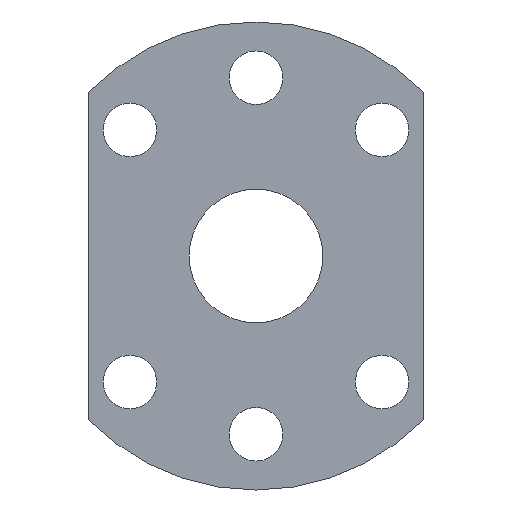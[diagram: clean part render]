
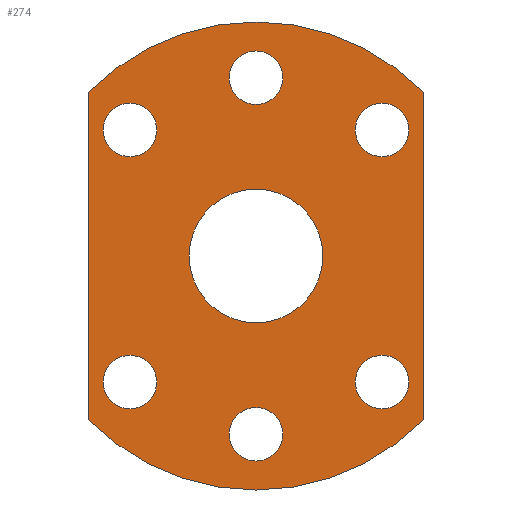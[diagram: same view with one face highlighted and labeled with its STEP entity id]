
A CAD part, left-side view. The second image highlights one B-rep face of the part: STEP entity #274.
In plain terms, the highlighted planar face has unit normal (-1, 0, 0).
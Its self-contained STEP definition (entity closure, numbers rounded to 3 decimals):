
#25=FACE_BOUND('',#56,.T.);
#26=FACE_BOUND('',#57,.T.);
#27=FACE_BOUND('',#58,.T.);
#28=FACE_BOUND('',#59,.T.);
#29=FACE_BOUND('',#60,.T.);
#30=FACE_BOUND('',#61,.T.);
#31=FACE_BOUND('',#62,.T.);
#40=FACE_OUTER_BOUND('',#55,.T.);
#55=EDGE_LOOP('',(#197,#198,#199,#200));
#56=EDGE_LOOP('',(#201));
#57=EDGE_LOOP('',(#202));
#58=EDGE_LOOP('',(#203));
#59=EDGE_LOOP('',(#204));
#60=EDGE_LOOP('',(#205));
#61=EDGE_LOOP('',(#206));
#62=EDGE_LOOP('',(#207));
#85=CIRCLE('',#310,21.);
#86=CIRCLE('',#311,21.);
#87=CIRCLE('',#312,6.);
#88=CIRCLE('',#313,2.4);
#89=CIRCLE('',#314,2.4);
#90=CIRCLE('',#315,2.4);
#91=CIRCLE('',#316,2.4);
#92=CIRCLE('',#317,2.4);
#93=CIRCLE('',#318,2.4);
#105=LINE('',#436,#121);
#106=LINE('',#440,#122);
#121=VECTOR('',#348,10.);
#122=VECTOR('',#351,10.);
#137=VERTEX_POINT('',#434);
#138=VERTEX_POINT('',#435);
#139=VERTEX_POINT('',#437);
#140=VERTEX_POINT('',#439);
#141=VERTEX_POINT('',#442);
#142=VERTEX_POINT('',#444);
#143=VERTEX_POINT('',#446);
#144=VERTEX_POINT('',#448);
#145=VERTEX_POINT('',#450);
#146=VERTEX_POINT('',#452);
#147=VERTEX_POINT('',#454);
#161=EDGE_CURVE('',#137,#138,#105,.T.);
#162=EDGE_CURVE('',#138,#139,#85,.T.);
#163=EDGE_CURVE('',#139,#140,#106,.T.);
#164=EDGE_CURVE('',#140,#137,#86,.T.);
#165=EDGE_CURVE('',#141,#141,#87,.T.);
#166=EDGE_CURVE('',#142,#142,#88,.T.);
#167=EDGE_CURVE('',#143,#143,#89,.T.);
#168=EDGE_CURVE('',#144,#144,#90,.T.);
#169=EDGE_CURVE('',#145,#145,#91,.T.);
#170=EDGE_CURVE('',#146,#146,#92,.T.);
#171=EDGE_CURVE('',#147,#147,#93,.T.);
#197=ORIENTED_EDGE('',*,*,#161,.T.);
#198=ORIENTED_EDGE('',*,*,#162,.T.);
#199=ORIENTED_EDGE('',*,*,#163,.T.);
#200=ORIENTED_EDGE('',*,*,#164,.T.);
#201=ORIENTED_EDGE('',*,*,#165,.T.);
#202=ORIENTED_EDGE('',*,*,#166,.T.);
#203=ORIENTED_EDGE('',*,*,#167,.T.);
#204=ORIENTED_EDGE('',*,*,#168,.T.);
#205=ORIENTED_EDGE('',*,*,#169,.T.);
#206=ORIENTED_EDGE('',*,*,#170,.T.);
#207=ORIENTED_EDGE('',*,*,#171,.T.);
#269=PLANE('',#309);
#274=ADVANCED_FACE('',(#40,#25,#26,#27,#28,#29,#30,#31),#269,.F.);
#309=AXIS2_PLACEMENT_3D('',#433,#346,#347);
#310=AXIS2_PLACEMENT_3D('',#438,#349,#350);
#311=AXIS2_PLACEMENT_3D('',#441,#352,#353);
#312=AXIS2_PLACEMENT_3D('',#443,#354,#355);
#313=AXIS2_PLACEMENT_3D('',#445,#356,#357);
#314=AXIS2_PLACEMENT_3D('',#447,#358,#359);
#315=AXIS2_PLACEMENT_3D('',#449,#360,#361);
#316=AXIS2_PLACEMENT_3D('',#451,#362,#363);
#317=AXIS2_PLACEMENT_3D('',#453,#364,#365);
#318=AXIS2_PLACEMENT_3D('',#455,#366,#367);
#346=DIRECTION('center_axis',(1.,0.,0.));
#347=DIRECTION('ref_axis',(0.,0.,-1.));
#348=DIRECTION('',(0.,0.,1.));
#349=DIRECTION('center_axis',(-1.,0.,0.));
#350=DIRECTION('ref_axis',(0.,-0.714,-0.7));
#351=DIRECTION('',(0.,0.,-1.));
#352=DIRECTION('center_axis',(-1.,0.,0.));
#353=DIRECTION('ref_axis',(0.,0.714,0.7));
#354=DIRECTION('center_axis',(1.,0.,0.));
#355=DIRECTION('ref_axis',(0.,-1.,0.));
#356=DIRECTION('center_axis',(1.,0.,0.));
#357=DIRECTION('ref_axis',(0.,1.,0.));
#358=DIRECTION('center_axis',(1.,0.,0.));
#359=DIRECTION('ref_axis',(0.,1.,0.));
#360=DIRECTION('center_axis',(1.,0.,0.));
#361=DIRECTION('ref_axis',(0.,1.,0.));
#362=DIRECTION('center_axis',(1.,0.,0.));
#363=DIRECTION('ref_axis',(0.,1.,0.));
#364=DIRECTION('center_axis',(1.,0.,0.));
#365=DIRECTION('ref_axis',(0.,1.,0.));
#366=DIRECTION('center_axis',(1.,0.,0.));
#367=DIRECTION('ref_axis',(0.,1.,0.));
#433=CARTESIAN_POINT('Origin',(0.,0.,-1.022));
#434=CARTESIAN_POINT('',(0.,-15.,-14.697));
#435=CARTESIAN_POINT('',(0.,-15.,14.697));
#436=CARTESIAN_POINT('',(0.,-15.,-7.86));
#437=CARTESIAN_POINT('',(0.,15.,14.697));
#438=CARTESIAN_POINT('Origin',(0.,0.,0.));
#439=CARTESIAN_POINT('',(0.,15.,-14.697));
#440=CARTESIAN_POINT('',(0.,15.,6.837));
#441=CARTESIAN_POINT('Origin',(0.,0.,0.));
#442=CARTESIAN_POINT('',(0.,6.,0.));
#443=CARTESIAN_POINT('Origin',(0.,0.,0.));
#444=CARTESIAN_POINT('',(0.,8.914,11.314));
#445=CARTESIAN_POINT('Origin',(0.,11.314,11.314));
#446=CARTESIAN_POINT('',(0.,-13.714,11.314));
#447=CARTESIAN_POINT('Origin',(0.,-11.314,11.314));
#448=CARTESIAN_POINT('',(0.,-2.4,16.));
#449=CARTESIAN_POINT('Origin',(0.,0.,16.));
#450=CARTESIAN_POINT('',(0.,-13.714,-11.314));
#451=CARTESIAN_POINT('Origin',(0.,-11.314,-11.314));
#452=CARTESIAN_POINT('',(0.,8.914,-11.314));
#453=CARTESIAN_POINT('Origin',(0.,11.314,-11.314));
#454=CARTESIAN_POINT('',(0.,-2.4,-16.));
#455=CARTESIAN_POINT('Origin',(0.,0.,-16.));
